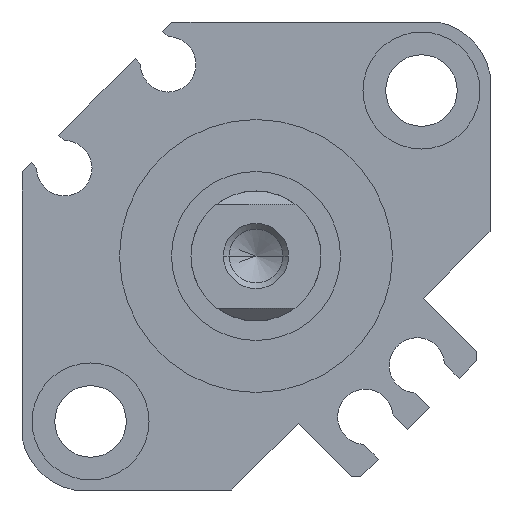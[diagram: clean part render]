
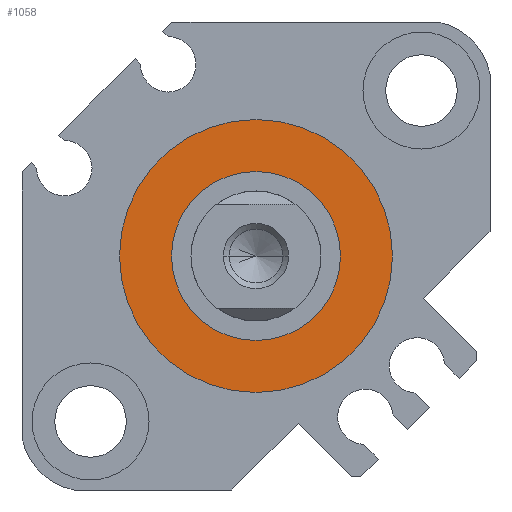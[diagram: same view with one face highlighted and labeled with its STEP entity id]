
A CAD part, left-side view. The second image highlights one B-rep face of the part: STEP entity #1058.
In plain terms, the highlighted planar face has unit normal (-1, 0, 0).
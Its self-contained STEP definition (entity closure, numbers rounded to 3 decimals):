
#30 = VERTEX_POINT ( 'NONE', #2575 ) ;
#165 = CARTESIAN_POINT ( 'NONE',  ( 1.6, 0., -6.5 ) ) ;
#305 = AXIS2_PLACEMENT_3D ( 'NONE', #1239, #2025, #665 ) ;
#342 = EDGE_CURVE ( 'NONE', #2227, #2115, #658, .T. ) ;
#550 = EDGE_CURVE ( 'NONE', #30, #1498, #3235, .T. ) ;
#658 = CIRCLE ( 'NONE', #2426, 6.5 ) ;
#665 = DIRECTION ( 'NONE',  ( 0., 1., 0. ) ) ;
#715 = CIRCLE ( 'NONE', #2760, 10.5 ) ;
#773 = CARTESIAN_POINT ( 'NONE',  ( 1.6, 0., 0. ) ) ;
#778 = CIRCLE ( 'NONE', #2098, 6.5 ) ;
#811 = DIRECTION ( 'NONE',  ( 0., 0., -1. ) ) ;
#888 = CARTESIAN_POINT ( 'NONE',  ( 1.6, 0., 10.5 ) ) ;
#918 = EDGE_CURVE ( 'NONE', #1498, #30, #715, .T. ) ;
#1030 = CARTESIAN_POINT ( 'NONE',  ( 1.6, 0., 6.5 ) ) ;
#1058 = ADVANCED_FACE ( 'NONE', ( #2804, #1184 ), #1768, .F. ) ;
#1161 = DIRECTION ( 'NONE',  ( 0., 0., -1. ) ) ;
#1184 = FACE_BOUND ( 'NONE', #1449, .T. ) ;
#1193 = AXIS2_PLACEMENT_3D ( 'NONE', #2621, #3177, #811 ) ;
#1237 = DIRECTION ( 'NONE',  ( 1., 0., 0. ) ) ;
#1239 = CARTESIAN_POINT ( 'NONE',  ( 1.6, 0., 0. ) ) ;
#1449 = EDGE_LOOP ( 'NONE', ( #2333, #2045 ) ) ;
#1498 = VERTEX_POINT ( 'NONE', #888 ) ;
#1750 = CARTESIAN_POINT ( 'NONE',  ( 1.6, 0., 0. ) ) ;
#1768 = PLANE ( 'NONE',  #305 ) ;
#2025 = DIRECTION ( 'NONE',  ( 1., 0., 0. ) ) ;
#2045 = ORIENTED_EDGE ( 'NONE', *, *, #2743, .T. ) ;
#2098 = AXIS2_PLACEMENT_3D ( 'NONE', #1750, #1237, #2284 ) ;
#2115 = VERTEX_POINT ( 'NONE', #165 ) ;
#2123 = ORIENTED_EDGE ( 'NONE', *, *, #918, .F. ) ;
#2227 = VERTEX_POINT ( 'NONE', #1030 ) ;
#2284 = DIRECTION ( 'NONE',  ( 0., 0., -1. ) ) ;
#2333 = ORIENTED_EDGE ( 'NONE', *, *, #342, .T. ) ;
#2426 = AXIS2_PLACEMENT_3D ( 'NONE', #3253, #3039, #1161 ) ;
#2439 = ORIENTED_EDGE ( 'NONE', *, *, #550, .F. ) ;
#2570 = EDGE_LOOP ( 'NONE', ( #2123, #2439 ) ) ;
#2575 = CARTESIAN_POINT ( 'NONE',  ( 1.6, 0., -10.5 ) ) ;
#2621 = CARTESIAN_POINT ( 'NONE',  ( 1.6, 0., 0. ) ) ;
#2669 = DIRECTION ( 'NONE',  ( 0., 0., -1. ) ) ;
#2743 = EDGE_CURVE ( 'NONE', #2115, #2227, #778, .T. ) ;
#2760 = AXIS2_PLACEMENT_3D ( 'NONE', #773, #2878, #2669 ) ;
#2804 = FACE_OUTER_BOUND ( 'NONE', #2570, .T. ) ;
#2878 = DIRECTION ( 'NONE',  ( 1., 0., 0. ) ) ;
#3039 = DIRECTION ( 'NONE',  ( 1., 0., 0. ) ) ;
#3177 = DIRECTION ( 'NONE',  ( 1., 0., 0. ) ) ;
#3235 = CIRCLE ( 'NONE', #1193, 10.5 ) ;
#3253 = CARTESIAN_POINT ( 'NONE',  ( 1.6, 0., 0. ) ) ;
